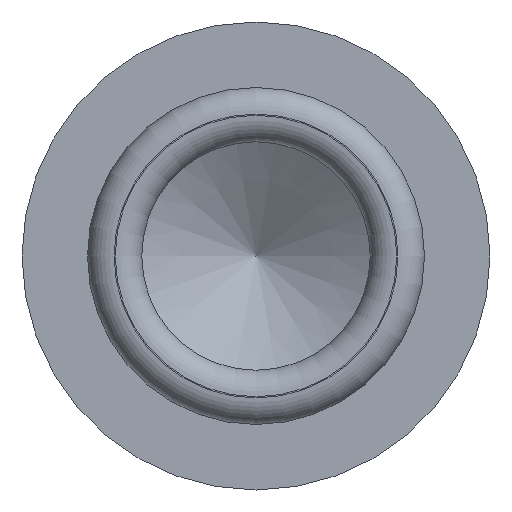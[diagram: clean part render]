
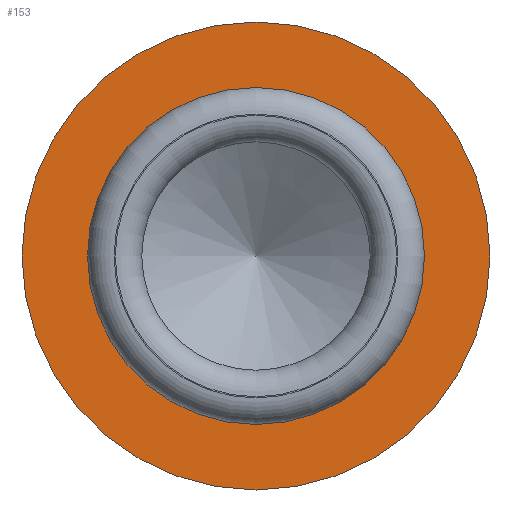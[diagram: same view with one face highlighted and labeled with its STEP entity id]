
A CAD part, left-side view. The second image highlights one B-rep face of the part: STEP entity #153.
In plain terms, the highlighted planar face has unit normal (-1, 0, 0).
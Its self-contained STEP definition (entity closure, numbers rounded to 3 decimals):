
#23=PLANE($,#179);
#32=FACE_BOUND($,#68,.T.);
#47=FACE_OUTER_BOUND($,#67,.T.);
#67=EDGE_LOOP($,(#132));
#68=EDGE_LOOP($,(#133));
#82=CIRCLE($,#171,1.143);
#86=CIRCLE($,#180,1.588);
#95=VERTEX_POINT($,#260);
#99=VERTEX_POINT($,#273);
#108=EDGE_CURVE($,#95,#95,#82,.T.);
#112=EDGE_CURVE($,#99,#99,#86,.T.);
#132=ORIENTED_EDGE($,*,*,#112,.F.);
#133=ORIENTED_EDGE($,*,*,#108,.T.);
#153=ADVANCED_FACE($,(#47,#32),#23,.T.);
#171=AXIS2_PLACEMENT_3D($,#261,#210,#211);
#179=AXIS2_PLACEMENT_3D($,#272,#226,#227);
#180=AXIS2_PLACEMENT_3D($,#274,#228,#229);
#210=DIRECTION('center_axis',(1.,0.,0.));
#211=DIRECTION('ref_axis',(0.,1.,0.));
#226=DIRECTION('center_axis',(-1.,0.,0.));
#227=DIRECTION('ref_axis',(0.,0.,1.));
#228=DIRECTION('center_axis',(1.,0.,0.));
#229=DIRECTION('ref_axis',(0.,1.,0.));
#260=CARTESIAN_POINT('',(4.013,1.143,0.));
#261=CARTESIAN_POINT('Origin',(4.013,0.,0.));
#272=CARTESIAN_POINT('Origin',(4.013,1.365,0.));
#273=CARTESIAN_POINT('',(4.013,1.588,0.));
#274=CARTESIAN_POINT('Origin',(4.013,0.,0.));
